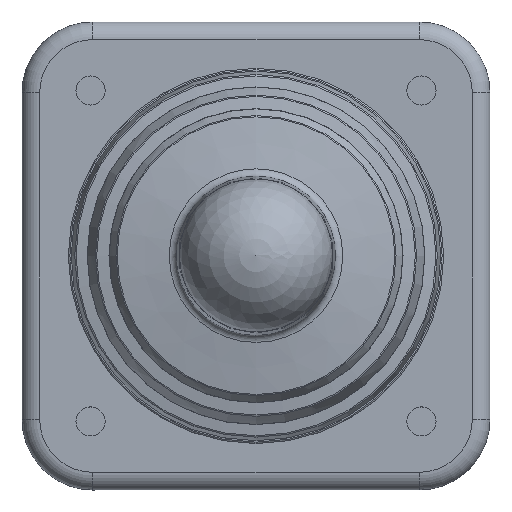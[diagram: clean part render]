
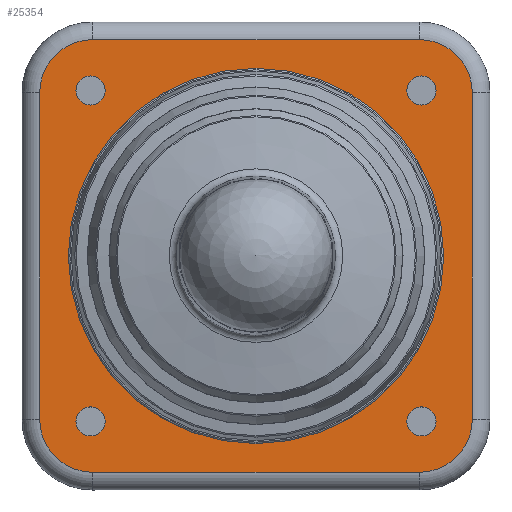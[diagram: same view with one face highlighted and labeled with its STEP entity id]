
A CAD part, top view. The second image highlights one B-rep face of the part: STEP entity #25354.
In plain terms, the highlighted planar face has unit normal (0, 0, 1).
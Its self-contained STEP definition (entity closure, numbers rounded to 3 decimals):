
#561=CIRCLE('',#26862,1.65);
#563=CIRCLE('',#26865,1.65);
#565=CIRCLE('',#26868,1.65);
#567=CIRCLE('',#26871,1.65);
#571=CIRCLE('',#26876,21.25);
#628=CIRCLE('',#26954,6.);
#631=CIRCLE('',#26959,6.);
#635=CIRCLE('',#26965,6.);
#639=CIRCLE('',#26971,6.);
#931=FACE_BOUND('',#2896,.T.);
#932=FACE_BOUND('',#2897,.T.);
#933=FACE_BOUND('',#2898,.T.);
#934=FACE_BOUND('',#2899,.T.);
#935=FACE_BOUND('',#2900,.T.);
#1598=FACE_OUTER_BOUND('',#2895,.T.);
#2895=EDGE_LOOP('',(#19837,#19838,#19839,#19840,#19841,#19842,#19843,#19844));
#2896=EDGE_LOOP('',(#19845));
#2897=EDGE_LOOP('',(#19846));
#2898=EDGE_LOOP('',(#19847));
#2899=EDGE_LOOP('',(#19848));
#2900=EDGE_LOOP('',(#19849));
#5088=LINE('',#38569,#8253);
#5090=LINE('',#38581,#8255);
#5092=LINE('',#38593,#8257);
#5094=LINE('',#38602,#8259);
#8253=VECTOR('',#31265,10.);
#8255=VECTOR('',#31279,10.);
#8257=VECTOR('',#31293,10.);
#8259=VECTOR('',#31305,10.);
#11077=VERTEX_POINT('',#38324);
#11079=VERTEX_POINT('',#38330);
#11081=VERTEX_POINT('',#38336);
#11083=VERTEX_POINT('',#38342);
#11087=VERTEX_POINT('',#38352);
#11127=VERTEX_POINT('',#38557);
#11130=VERTEX_POINT('',#38562);
#11132=VERTEX_POINT('',#38567);
#11134=VERTEX_POINT('',#38573);
#11136=VERTEX_POINT('',#38579);
#11138=VERTEX_POINT('',#38585);
#11140=VERTEX_POINT('',#38591);
#11142=VERTEX_POINT('',#38597);
#14161=EDGE_CURVE('',#11077,#11077,#561,.T.);
#14164=EDGE_CURVE('',#11079,#11079,#563,.T.);
#14167=EDGE_CURVE('',#11081,#11081,#565,.T.);
#14170=EDGE_CURVE('',#11083,#11083,#567,.T.);
#14176=EDGE_CURVE('',#11087,#11087,#571,.T.);
#14241=EDGE_CURVE('',#11130,#11127,#628,.T.);
#14243=EDGE_CURVE('',#11132,#11130,#5088,.T.);
#14246=EDGE_CURVE('',#11134,#11132,#631,.T.);
#14249=EDGE_CURVE('',#11136,#11134,#5090,.T.);
#14252=EDGE_CURVE('',#11138,#11136,#635,.T.);
#14255=EDGE_CURVE('',#11140,#11138,#5092,.T.);
#14258=EDGE_CURVE('',#11142,#11140,#639,.T.);
#14260=EDGE_CURVE('',#11127,#11142,#5094,.T.);
#19837=ORIENTED_EDGE('',*,*,#14241,.F.);
#19838=ORIENTED_EDGE('',*,*,#14243,.F.);
#19839=ORIENTED_EDGE('',*,*,#14246,.F.);
#19840=ORIENTED_EDGE('',*,*,#14249,.F.);
#19841=ORIENTED_EDGE('',*,*,#14252,.F.);
#19842=ORIENTED_EDGE('',*,*,#14255,.F.);
#19843=ORIENTED_EDGE('',*,*,#14258,.F.);
#19844=ORIENTED_EDGE('',*,*,#14260,.F.);
#19845=ORIENTED_EDGE('',*,*,#14161,.T.);
#19846=ORIENTED_EDGE('',*,*,#14164,.T.);
#19847=ORIENTED_EDGE('',*,*,#14167,.T.);
#19848=ORIENTED_EDGE('',*,*,#14170,.T.);
#19849=ORIENTED_EDGE('',*,*,#14176,.T.);
#24209=PLANE('',#26980);
#25354=ADVANCED_FACE('',(#1598,#931,#932,#933,#934,#935),#24209,.F.);
#26862=AXIS2_PLACEMENT_3D('',#38325,#31062,#31063);
#26865=AXIS2_PLACEMENT_3D('',#38331,#31069,#31070);
#26868=AXIS2_PLACEMENT_3D('',#38337,#31076,#31077);
#26871=AXIS2_PLACEMENT_3D('',#38343,#31083,#31084);
#26876=AXIS2_PLACEMENT_3D('',#38354,#31095,#31096);
#26954=AXIS2_PLACEMENT_3D('',#38564,#31259,#31260);
#26959=AXIS2_PLACEMENT_3D('',#38575,#31271,#31272);
#26965=AXIS2_PLACEMENT_3D('',#38587,#31285,#31286);
#26971=AXIS2_PLACEMENT_3D('',#38599,#31299,#31300);
#26980=AXIS2_PLACEMENT_3D('',#38622,#31326,#31327);
#31062=DIRECTION('center_axis',(0.,0.,
-1.));
#31063=DIRECTION('ref_axis',(0.,1.,0.));
#31069=DIRECTION('center_axis',(0.,0.,
-1.));
#31070=DIRECTION('ref_axis',(1.,0.,0.));
#31076=DIRECTION('center_axis',(0.,0.,
-1.));
#31077=DIRECTION('ref_axis',(0.,-1.,0.));
#31083=DIRECTION('center_axis',(0.,0.,
-1.));
#31084=DIRECTION('ref_axis',(-1.,0.,0.));
#31095=DIRECTION('center_axis',(0.,0.,
-1.));
#31096=DIRECTION('ref_axis',(0.,1.,0.));
#31259=DIRECTION('center_axis',(0.,0.,
-1.));
#31260=DIRECTION('ref_axis',(-0.707,0.707,0.));
#31265=DIRECTION('',(0.,1.,0.));
#31271=DIRECTION('center_axis',(0.,0.,
-1.));
#31272=DIRECTION('ref_axis',(-0.707,-0.707,0.));
#31279=DIRECTION('',(-1.,0.,0.));
#31285=DIRECTION('center_axis',(0.,0.,
-1.));
#31286=DIRECTION('ref_axis',(0.707,-0.707,0.));
#31293=DIRECTION('',(0.,-1.,0.));
#31299=DIRECTION('center_axis',(0.,0.,
-1.));
#31300=DIRECTION('ref_axis',(0.707,0.707,0.));
#31305=DIRECTION('',(1.,0.,0.));
#31326=DIRECTION('center_axis',(0.,0.,
-1.));
#31327=DIRECTION('ref_axis',(1.,0.,0.));
#38324=CARTESIAN_POINT('',(-18.762,17.112,-4.15));
#38325=CARTESIAN_POINT('Origin',(-18.762,18.762,-4.15));
#38330=CARTESIAN_POINT('',(17.065,18.762,-4.15));
#38331=CARTESIAN_POINT('Origin',(18.715,18.762,-4.15));
#38336=CARTESIAN_POINT('',(18.715,-17.065,-4.15));
#38337=CARTESIAN_POINT('Origin',(18.715,-18.715,-4.15));
#38342=CARTESIAN_POINT('',(-17.112,-18.715,-4.15));
#38343=CARTESIAN_POINT('Origin',(-18.762,-18.715,-4.15));
#38352=CARTESIAN_POINT('',(-0.023,-21.227,-4.15));
#38354=CARTESIAN_POINT('Origin',(-0.023,0.023,
-4.15));
#38557=CARTESIAN_POINT('',(-18.523,24.523,-4.15));
#38562=CARTESIAN_POINT('',(-24.523,18.523,-4.15));
#38564=CARTESIAN_POINT('Origin',(-18.523,18.523,-4.15));
#38567=CARTESIAN_POINT('',(-24.523,-18.477,-4.15));
#38569=CARTESIAN_POINT('',(-24.523,9.273,-4.15));
#38573=CARTESIAN_POINT('',(-18.523,-24.477,-4.15));
#38575=CARTESIAN_POINT('Origin',(-18.523,-18.477,-4.15));
#38579=CARTESIAN_POINT('',(18.477,-24.477,-4.15));
#38581=CARTESIAN_POINT('',(-9.273,-24.477,-4.15));
#38585=CARTESIAN_POINT('',(24.477,-18.477,-4.15));
#38587=CARTESIAN_POINT('Origin',(18.477,-18.477,-4.15));
#38591=CARTESIAN_POINT('',(24.477,18.523,-4.15));
#38593=CARTESIAN_POINT('',(24.477,-9.227,-4.15));
#38597=CARTESIAN_POINT('',(18.477,24.523,-4.15));
#38599=CARTESIAN_POINT('Origin',(18.477,18.523,-4.15));
#38602=CARTESIAN_POINT('',(9.227,24.523,-4.15));
#38622=CARTESIAN_POINT('Origin',(-0.023,0.023,
-4.15));
